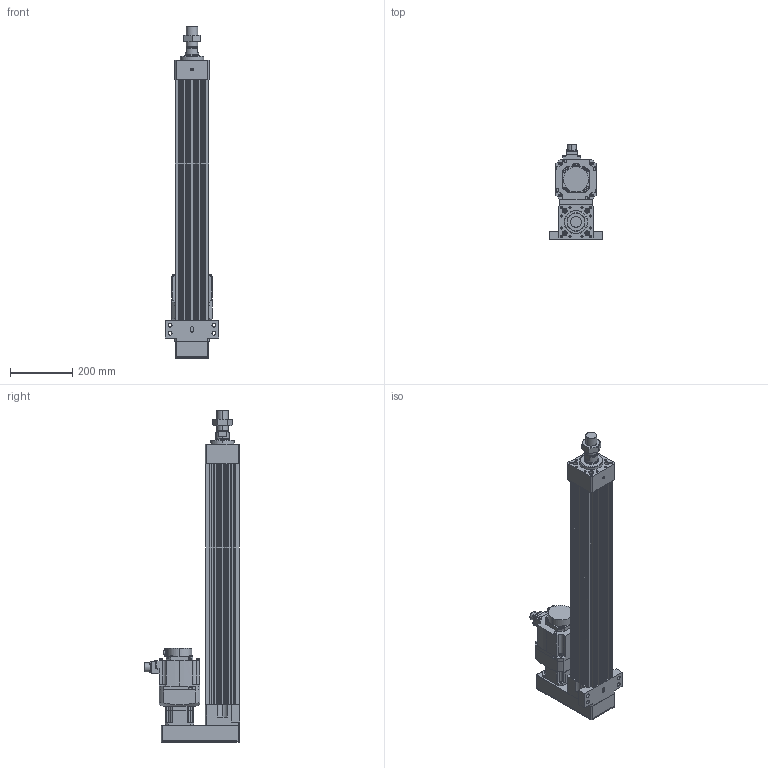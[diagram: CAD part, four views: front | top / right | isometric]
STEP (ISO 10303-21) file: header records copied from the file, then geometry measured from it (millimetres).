
FILE_DESCRIPTION (( 'STEP AP203' ), '1' );
FILE_NAME ('HES110NS(HS)-P600-W010G00-M-FFC.STEP', '2023-01-26T10:23:57', ( 'tms' ), ( '' ), 'SwSTEP 2.0', 'SolidWorks 2013', '' );
FILE_SCHEMA (( 'CONFIG_CONTROL_DESIGN' ));
Length unit declared in the file: millimetre
Products named in the file (8): HES110NS(HS)-P600-W010G00-M-FFC; P0401301004; AB0901; HES110-P600-G090-FFC; AB090-003[HG-SR102B]; M36X1.5P; HG-SR102; HES110 ROD M ST600
Assembly tree (7 placements, depth 3):
  HES110NS(HS)-P600-W010G00-M-FFC
    HES110-P600-G090-FFC
    HES110 ROD M ST600
    M36X1.5P
    AB090-003[HG-SR102B]
      AB0901
      P0401301004
    HG-SR102
Bounding box: 170 x 304.99 x 1063 mm (x, y, z)
Volume: 9269082 mm3; surface area: 1227564.9 mm2
Topology: 4 solids, 11 shells, 1111 faces, 2835 edges, 1826 vertices
Faces by surface type: cylinder 519, plane 486, cone 94, bspline 8, torus 4
Entity records: 35472 total; most frequent: CARTESIAN_POINT 6938, DIRECTION 6110, ORIENTED_EDGE 5574, EDGE_CURVE 2797, AXIS2_PLACEMENT_3D 2269, VERTEX_POINT 1826, LINE 1572, VECTOR 1572
